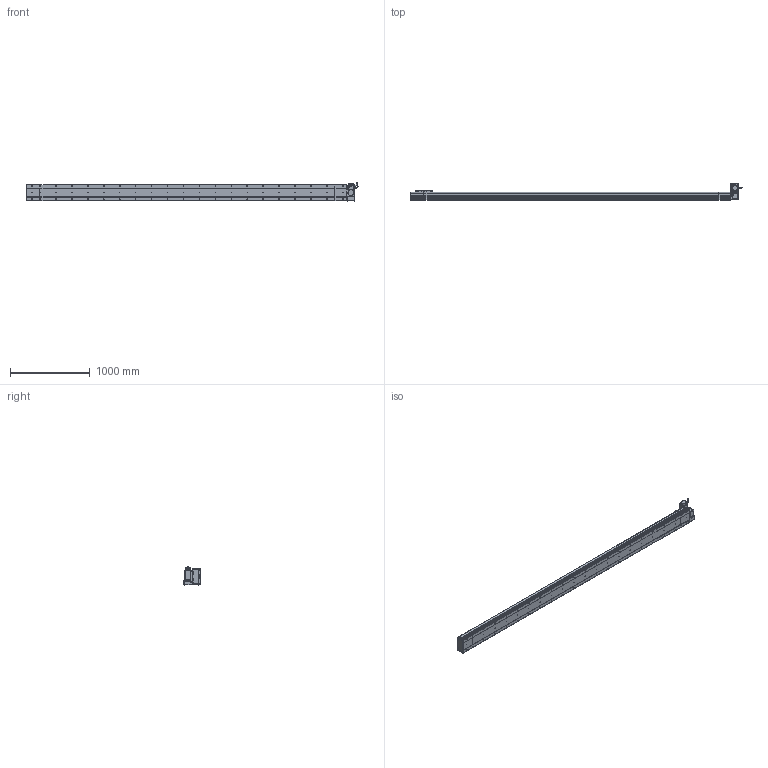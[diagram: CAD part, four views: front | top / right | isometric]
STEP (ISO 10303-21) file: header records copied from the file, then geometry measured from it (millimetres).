
FILE_DESCRIPTION (( 'STEP AP214' ), '1' );
FILE_NAME ('D20 CBH RT S3700.STEP', '2010-06-30T11:06:01', ( 'Conseil Régional Haute-Normandie' ), ( 'Conseil Régional Haute-Normandie' ), 'SwSTEP 2.0', 'SolidWorks 2010', '' );
FILE_SCHEMA (( 'AUTOMOTIVE_DESIGN' ));
Length unit declared in the file: millimetre
Products named in the file (31): Chariot D20_Default; Support Chariot D20_Default; Conecteur2_Default; Conecteur_Default; vis M5 L30_Default; ecrou_Default; Cache Support Moteur RT_Default; vis M5 L47_Default; Couvercle RT_Default; Glissiere_Default; Moteur motionking 90BLDC125A-640; avant 90BLDC125A-640; corps 90BLDC125A-640; Corp S3700_Default; Rondelle Cache D20 RT_Default; Corp Tail D20+100_Default; Plaque De Serrage D20_Default; Plaque de Bout Tail D20_Default; Couvercle_Default; vis M5 L15_Default; Tail D20+100_Default; Couvercle S3700_Default; Head RT_Default; Corp Tail D20 RT_Default; D20 CBH RT S3700; codeur 90BLDC125-640; Plaque De Serrage D20 RT_Default; Corp D20 S3700_Default; Support moteur RT_Default; Plaque de Bout Head D20 RT_Default
Assembly tree (68 placements, depth 4):
  D20 CBH RT S3700
    Tail D20+100_Default
      Plaque De Serrage D20_Default
      Plaque de Bout Tail D20_Default
      vis M5 L15_Default  x6
      Corp Tail D20+100_Default
      Couvercle_Default
    Chariot D20_Default
      vis M5 L15_Default  x8
      Glissiere_Default
      Support Chariot D20_Default
      Chariot D20_Default
    Head RT_Default
      Moteur motionking 90BLDC125A-640
        corps 90BLDC125A-640
        codeur 90BLDC125-640
        avant 90BLDC125A-640
        Conecteur2_Default
        Conecteur_Default
      vis M5 L30_Default  x4
      vis M5 L15_Default  x14
      vis M5 L47_Default  x4
      Plaque De Serrage D20 RT_Default
      Rondelle Cache D20 RT_Default  x3
      Cache Support Moteur RT_Default
      ecrou_Default  x4
      Corp Tail D20 RT_Default
      Plaque de Bout Head D20 RT_Default
      Support moteur RT_Default
      Couvercle RT_Default
    Corp D20 S3700_Default
      Couvercle S3700_Default
      Corp S3700_Default
Bounding box: 4164.45 x 206.5 x 229.7 mm (x, y, z)
Volume: 27663571.7 mm3; surface area: 5283388 mm2
Topology: 105 solids, 105 shells, 3901 faces, 9678 edges, 6286 vertices
Faces by surface type: plane 2158, bspline 806, cylinder 766, torus 95, cone 72, sphere 4
Entity records: 161750 total; most frequent: CARTESIAN_POINT 82697, ORIENTED_EDGE 15624, DIRECTION 12070, EDGE_CURVE 7812, VERTEX_POINT 5170, LINE 5008, VECTOR 5008, AXIS2_PLACEMENT_3D 3531
